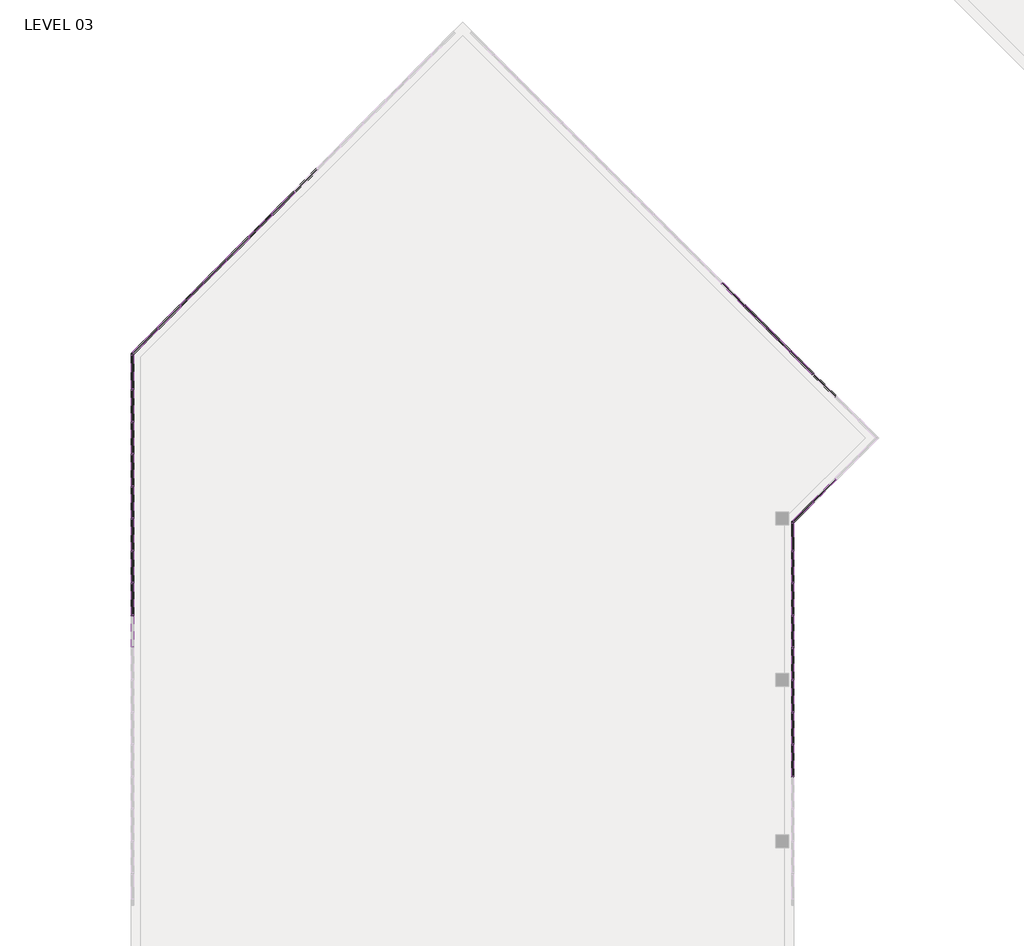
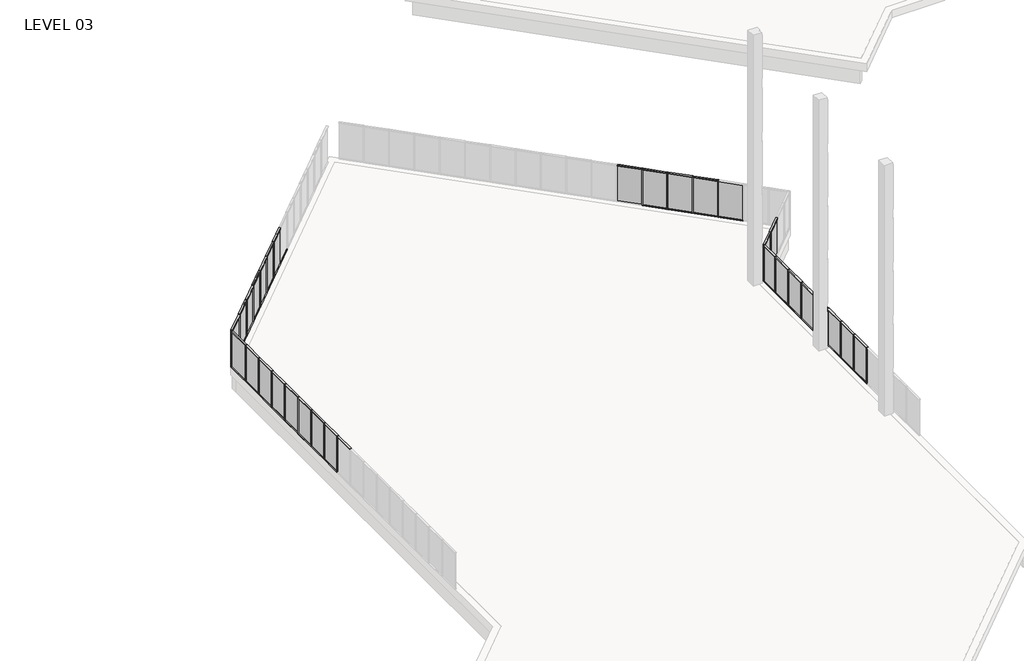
# One storey, part 5 of 18: 90 members, 30 plates.
"""IFC4 building model written with IfcOpenShell, lengths in millimetres."""

from ifc_helpers import new_model, si_unit, origin, place, context, project, spatial, transform, mapped, element, save
from components import member_5247f267, member_e44af9ab, member_800970d4, member_45eb7f2e, member_1bd862b2, member_c975838b, plate_67294edd, plate_bbcbcabf, plate_9c66726c, plate_3fb62afd, plate_129ab9d0

model = new_model("IFC4")

# Units and contexts
model_context = context("Model", 3, world=origin())
ifc_project = project(units=[si_unit("LENGTHUNIT", "METRE", prefix="MILLI")], contexts=[model_context])

# Site, building, storey
site = spatial("IfcSite", under=ifc_project)
building = spatial("IfcBuilding", under=site)
storey = spatial("IfcBuildingStorey", under=building, Name="LEVEL 03", Elevation=8280.4)

# Members
placement = place(None, origin())
member_shape = member_5247f267(model_context)
element("IfcMember", 1, ObjectType="Rectangular Mullion : 2\" x 4.5\" rectangular", at=placement, inside=storey, context=model_context, shape_type="MappedRepresentation", body=[
    mapped(member_shape, transform((-1611.8847164, 58254.5675885, 10871.2), x_axis=(0.0, 0.0, 1.0), y_axis=(1.0, 0.0, 0.0), z_axis=(0.0, 1.0, 0.0))),
])
element("IfcMember", 2, ObjectType="Rectangular Mullion : 2\" x 4.5\" rectangular", at=placement, inside=storey, context=model_context, shape_type="MappedRepresentation", body=[
    mapped(member_shape, transform((-1611.8847164, 59778.5675885, 10871.2), x_axis=(0.0, 0.0, 1.0), y_axis=(1.0, 0.0, 0.0), z_axis=(0.0, 1.0, 0.0))),
])
element("IfcMember", 3, ObjectType="Rectangular Mullion : 2\" x 4.5\" rectangular", at=placement, inside=storey, context=model_context, shape_type="MappedRepresentation", body=[
    mapped(member_shape, transform((-1611.8847164, 62826.5675885, 10871.2), x_axis=(0.0, 0.0, 1.0), y_axis=(1.0, 0.0, 0.0), z_axis=(0.0, 1.0, 0.0))),
])
element("IfcMember", 4, ObjectType="Rectangular Mullion : 2\" x 4.5\" rectangular", at=placement, inside=storey, context=model_context, shape_type="MappedRepresentation", body=[
    mapped(member_shape, transform((-1611.8847164, 64350.5675885, 10871.2), x_axis=(0.0, 0.0, 1.0), y_axis=(1.0, 0.0, 0.0), z_axis=(0.0, 1.0, 0.0))),
])
element("IfcMember", 5, ObjectType="Rectangular Mullion : 2\" x 4.5\" rectangular", at=placement, inside=storey, context=model_context, shape_type="MappedRepresentation", body=[
    mapped(member_shape, transform((-1611.8847164, 65874.5675885, 10871.2), x_axis=(0.0, 0.0, 1.0), y_axis=(1.0, 0.0, 0.0), z_axis=(0.0, 1.0, 0.0))),
])
element("IfcMember", 6, ObjectType="Rectangular Mullion : 2\" x 4.5\" rectangular", at=placement, inside=storey, context=model_context, shape_type="MappedRepresentation", body=[
    mapped(member_shape, transform((-1611.8847164, 67398.5675885, 10871.2), x_axis=(0.0, 0.0, 1.0), y_axis=(1.0, 0.0, 0.0), z_axis=(0.0, 1.0, 0.0))),
])
element("IfcMember", 7, ObjectType="Rectangular Mullion : 2\" x 4.5\" rectangular", at=placement, inside=storey, context=model_context, shape_type="MappedRepresentation", body=[
    mapped(member_shape, transform((-32784.0347164, 64350.5675885, 10871.2), x_axis=(0.0, 0.0, 1.0), y_axis=(1.0, 0.0, 0.0), z_axis=(0.0, 1.0, 0.0))),
])
element("IfcMember", 8, ObjectType="Rectangular Mullion : 2\" x 4.5\" rectangular", at=placement, inside=storey, context=model_context, shape_type="MappedRepresentation", body=[
    mapped(member_shape, transform((-32784.0347164, 67398.5675885, 10871.2), x_axis=(0.0, 0.0, 1.0), y_axis=(1.0, 0.0, 0.0), z_axis=(0.0, 1.0, 0.0))),
])
element("IfcMember", 9, ObjectType="Rectangular Mullion : 2\" x 4.5\" rectangular", at=placement, inside=storey, context=model_context, shape_type="MappedRepresentation", body=[
    mapped(member_shape, transform((-32784.0347164, 71970.5675885, 10871.2), x_axis=(0.0, 0.0, 1.0), y_axis=(1.0, 0.0, 0.0), z_axis=(0.0, 1.0, 0.0))),
])
element("IfcMember", 10, ObjectType="Rectangular Mullion : 2\" x 4.5\" rectangular", at=placement, inside=storey, context=model_context, shape_type="MappedRepresentation", body=[
    mapped(member_shape, transform((-32784.0347164, 73494.5675885, 10871.2), x_axis=(0.0, 0.0, 1.0), y_axis=(1.0, 0.0, 0.0), z_axis=(0.0, 1.0, 0.0))),
])
element("IfcMember", 11, ObjectType="Rectangular Mullion : 2\" x 4.5\" rectangular", at=placement, inside=storey, context=model_context, shape_type="MappedRepresentation", body=[
    mapped(member_shape, transform((-30529.7405, 78987.9679405, 10871.2), x_axis=(0.0, 0.0, 1.0), y_axis=(0.7071067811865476, -0.7071067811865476, 0.0), z_axis=(0.7071067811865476, 0.7071067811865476, 0.0))),
])
element("IfcMember", 12, ObjectType="Rectangular Mullion : 2\" x 4.5\" rectangular", at=placement, inside=storey, context=model_context, shape_type="MappedRepresentation", body=[
    mapped(member_shape, transform((-29452.1097655, 80065.598675, 10871.2), x_axis=(0.0, 0.0, 1.0), y_axis=(0.7071067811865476, -0.7071067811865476, 0.0), z_axis=(0.7071067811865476, 0.7071067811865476, 0.0))),
])
element("IfcMember", 13, ObjectType="Rectangular Mullion : 2\" x 4.5\" rectangular", at=placement, inside=storey, context=model_context, shape_type="MappedRepresentation", body=[
    mapped(member_shape, transform((-28374.479031, 81143.2294096, 10871.2), x_axis=(0.0, 0.0, 1.0), y_axis=(0.7071067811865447, -0.7071067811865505, 0.0), z_axis=(0.7071067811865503, 0.7071067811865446, 0.0))),
])
element("IfcMember", 14, ObjectType="Rectangular Mullion : 2\" x 4.5\" rectangular", at=placement, inside=storey, context=model_context, shape_type="MappedRepresentation", body=[
    mapped(member_shape, transform((-26219.2175619, 83298.4908786, 10871.2), x_axis=(0.0, 0.0, 1.0), y_axis=(0.707106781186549, -0.7071067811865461, 0.0), z_axis=(0.7071067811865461, 0.707106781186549, 0.0))),
])
element("IfcMember", 15, ObjectType="Rectangular Mullion : 2\" x 4.5\" rectangular", at=placement, inside=storey, context=model_context, shape_type="MappedRepresentation", body=[
    mapped(member_shape, transform((-25141.5868274, 84376.1216131, 10871.2), x_axis=(0.0, 0.0, 1.0), y_axis=(0.7071067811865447, -0.7071067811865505, 0.0), z_axis=(0.7071067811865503, 0.7071067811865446, 0.0))),
])
element("IfcMember", 16, ObjectType="Rectangular Mullion : 2\" x 4.5\" rectangular", at=placement, inside=storey, context=model_context, shape_type="MappedRepresentation", body=[
    mapped(member_shape, transform((-3902.2786299, 79024.0676376, 10871.2), x_axis=(0.0, 0.0, 1.0), y_axis=(-0.7071067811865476, -0.7071067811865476, 0.0), z_axis=(0.7071067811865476, -0.7071067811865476, 0.0))),
])
element("IfcMember", 17, ObjectType="Rectangular Mullion : 2\" x 4.5\" rectangular", at=placement, inside=storey, context=model_context, shape_type="MappedRepresentation", body=[
    mapped(member_shape, transform((-633.4615109, 69760.6846584, 10871.2), x_axis=(0.0, 0.0, 1.0), y_axis=(-0.7071067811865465, 0.7071067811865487, 0.0), z_axis=(-0.7071067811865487, -0.7071067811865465, 0.0))),
])
element("IfcMember", 18, ObjectType="Rectangular Mullion : 2\" x 4.5\" rectangular", at=placement, inside=storey, context=model_context, shape_type="MappedRepresentation", body=[
    mapped(member_shape, transform((-32784.0347164, 65874.5675885, 10871.2), x_axis=(0.0, 0.0, 1.0), y_axis=(1.0, 0.0, 0.0), z_axis=(0.0, 1.0, 0.0))),
])
element("IfcMember", 19, ObjectType="Rectangular Mullion : 2\" x 4.5\" rectangular", at=placement, inside=storey, context=model_context, shape_type="MappedRepresentation", body=[
    mapped(member_shape, transform((-32784.0347164, 68922.5675885, 10871.2), x_axis=(0.0, 0.0, 1.0), y_axis=(1.0, 0.0, 0.0), z_axis=(0.0, 1.0, 0.0))),
])
element("IfcMember", 20, ObjectType="Rectangular Mullion : 2\" x 4.5\" rectangular", at=placement, inside=storey, context=model_context, shape_type="MappedRepresentation", body=[
    mapped(member_shape, transform((-32784.0347164, 70446.5675885, 10871.2), x_axis=(0.0, 0.0, 1.0), y_axis=(1.0, 0.0, 0.0), z_axis=(0.0, 1.0, 0.0))),
])
element("IfcMember", 21, ObjectType="Rectangular Mullion : 2\" x 4.5\" rectangular", at=placement, inside=storey, context=model_context, shape_type="MappedRepresentation", body=[
    mapped(member_shape, transform((-32784.0347164, 75018.5675885, 10871.2), x_axis=(0.0, 0.0, 1.0), y_axis=(1.0, 0.0, 0.0), z_axis=(0.0, 1.0, 0.0))),
])
element("IfcMember", 22, ObjectType="Rectangular Mullion : 2\" x 4.5\" rectangular", at=placement, inside=storey, context=model_context, shape_type="MappedRepresentation", body=[
    mapped(member_shape, transform((-27296.8482965, 82220.8601441, 10871.2), x_axis=(0.0, 0.0, 1.0), y_axis=(0.7071067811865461, -0.707106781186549, 0.0), z_axis=(0.707106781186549, 0.7071067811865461, 0.0))),
])
element("IfcMember", 23, ObjectType="Rectangular Mullion : 2\" x 4.5\" rectangular", at=placement, inside=storey, context=model_context, shape_type="MappedRepresentation", body=[
    mapped(member_shape, transform((-2824.6478954, 77946.4369031, 10871.2), x_axis=(0.0, 0.0, 1.0), y_axis=(-0.7071067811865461, -0.707106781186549, 0.0), z_axis=(0.707106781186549, -0.7071067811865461, 0.0))),
])
element("IfcMember", 24, ObjectType="Rectangular Mullion : 2\" x 4.5\" rectangular", at=placement, inside=storey, context=model_context, shape_type="MappedRepresentation", body=[
    mapped(member_shape, transform((-1747.0171608, 76868.8061686, 10871.2), x_axis=(0.0, 0.0, 1.0), y_axis=(-0.7071067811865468, -0.7071067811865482, 0.0), z_axis=(0.7071067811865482, -0.7071067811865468, 0.0))),
])
element("IfcMember", 25, ObjectType="Rectangular Mullion : 2\" x 4.5\" rectangular", at=placement, inside=storey, context=model_context, shape_type="MappedRepresentation", body=[
    mapped(member_shape, transform((-669.3864263, 75791.175434, 10871.2), x_axis=(0.0, 0.0, 1.0), y_axis=(-0.7071067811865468, -0.7071067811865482, 0.0), z_axis=(0.7071067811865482, -0.7071067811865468, 0.0))),
])
element("IfcMember", 26, ObjectType="Rectangular Mullion : 2\" x 4.5\" rectangular", at=placement, inside=storey, context=model_context, shape_type="MappedRepresentation", body=[
    mapped(member_shape, transform((-1611.8847164, 61302.5675885, 10871.2), x_axis=(0.0, 0.0, 1.0), y_axis=(1.0, 0.0, 0.0), z_axis=(0.0, 1.0, 0.0))),
])
element("IfcMember", 27, ObjectType="Rectangular Mullion : 2\" x 4.5\" rectangular", at=placement, inside=storey, context=model_context, shape_type="MappedRepresentation", body=[
    mapped(member_shape, transform((-1611.8847164, 56781.3675885, 8280.4), x_axis=(0.0, 0.0, -1.0), y_axis=(1.0, 0.0, 0.0), z_axis=(0.0, -1.0, 0.0))),
])
element("IfcMember", 28, ObjectType="Rectangular Mullion : 2\" x 4.5\" rectangular", at=placement, inside=storey, context=model_context, shape_type="MappedRepresentation", body=[
    mapped(member_shape, transform((-1611.8847164, 58305.3675885, 8280.4), x_axis=(0.0, 0.0, -1.0), y_axis=(1.0, 0.0, 0.0), z_axis=(0.0, -1.0, 0.0))),
])
element("IfcMember", 29, ObjectType="Rectangular Mullion : 2\" x 4.5\" rectangular", at=placement, inside=storey, context=model_context, shape_type="MappedRepresentation", body=[
    mapped(member_shape, transform((-1611.8847164, 59829.3675885, 8280.4), x_axis=(0.0, 0.0, -1.0), y_axis=(1.0, 0.0, 0.0), z_axis=(0.0, -1.0, 0.0))),
])
element("IfcMember", 30, ObjectType="Rectangular Mullion : 2\" x 4.5\" rectangular", at=placement, inside=storey, context=model_context, shape_type="MappedRepresentation", body=[
    mapped(member_shape, transform((-1611.8847164, 62877.3675885, 8280.4), x_axis=(0.0, 0.0, -1.0), y_axis=(1.0, 0.0, 0.0), z_axis=(0.0, -1.0, 0.0))),
])
element("IfcMember", 31, ObjectType="Rectangular Mullion : 2\" x 4.5\" rectangular", at=placement, inside=storey, context=model_context, shape_type="MappedRepresentation", body=[
    mapped(member_shape, transform((-1611.8847164, 64401.3675885, 8280.4), x_axis=(0.0, 0.0, -1.0), y_axis=(1.0, 0.0, 0.0), z_axis=(0.0, -1.0, 0.0))),
])
element("IfcMember", 32, ObjectType="Rectangular Mullion : 2\" x 4.5\" rectangular", at=placement, inside=storey, context=model_context, shape_type="MappedRepresentation", body=[
    mapped(member_shape, transform((-1611.8847164, 65925.3675885, 8280.4), x_axis=(0.0, 0.0, -1.0), y_axis=(1.0, 0.0, 0.0), z_axis=(0.0, -1.0, 0.0))),
])
element("IfcMember", 33, ObjectType="Rectangular Mullion : 2\" x 4.5\" rectangular", at=placement, inside=storey, context=model_context, shape_type="MappedRepresentation", body=[
    mapped(member_shape, transform((-32784.0347164, 64401.3675885, 8280.4), x_axis=(0.0, 0.0, -1.0), y_axis=(1.0, 0.0, 0.0), z_axis=(0.0, -1.0, 0.0))),
])
element("IfcMember", 34, ObjectType="Rectangular Mullion : 2\" x 4.5\" rectangular", at=placement, inside=storey, context=model_context, shape_type="MappedRepresentation", body=[
    mapped(member_shape, transform((-32784.0347164, 67449.3675885, 8280.4), x_axis=(0.0, 0.0, -1.0), y_axis=(1.0, 0.0, 0.0), z_axis=(0.0, -1.0, 0.0))),
])
element("IfcMember", 35, ObjectType="Rectangular Mullion : 2\" x 4.5\" rectangular", at=placement, inside=storey, context=model_context, shape_type="MappedRepresentation", body=[
    mapped(member_shape, transform((-32784.0347164, 72021.3675885, 8280.4), x_axis=(0.0, 0.0, -1.0), y_axis=(1.0, 0.0, 0.0), z_axis=(0.0, -1.0, 0.0))),
])
element("IfcMember", 36, ObjectType="Rectangular Mullion : 2\" x 4.5\" rectangular", at=placement, inside=storey, context=model_context, shape_type="MappedRepresentation", body=[
    mapped(member_shape, transform((-32784.0347164, 73545.3675885, 8280.4), x_axis=(0.0, 0.0, -1.0), y_axis=(1.0, 0.0, 0.0), z_axis=(0.0, -1.0, 0.0))),
])
element("IfcMember", 37, ObjectType="Rectangular Mullion : 2\" x 4.5\" rectangular", at=placement, inside=storey, context=model_context, shape_type="MappedRepresentation", body=[
    mapped(member_shape, transform((-31571.4502101, 77946.2582305, 8280.4), x_axis=(0.0, 0.0, -1.0), y_axis=(0.7071067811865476, -0.7071067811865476, 0.0), z_axis=(-0.7071067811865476, -0.7071067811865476, 0.0))),
])
element("IfcMember", 38, ObjectType="Rectangular Mullion : 2\" x 4.5\" rectangular", at=placement, inside=storey, context=model_context, shape_type="MappedRepresentation", body=[
    mapped(member_shape, transform((-30493.8194756, 79023.888965, 8280.4), x_axis=(0.0, 0.0, -1.0), y_axis=(0.7071067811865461, -0.707106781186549, 0.0), z_axis=(-0.707106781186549, -0.7071067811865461, 0.0))),
])
element("IfcMember", 39, ObjectType="Rectangular Mullion : 2\" x 4.5\" rectangular", at=placement, inside=storey, context=model_context, shape_type="MappedRepresentation", body=[
    mapped(member_shape, transform((-29416.188741, 80101.5196995, 8280.4), x_axis=(0.0, 0.0, -1.0), y_axis=(0.7071067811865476, -0.7071067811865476, 0.0), z_axis=(-0.7071067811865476, -0.7071067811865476, 0.0))),
])
element("IfcMember", 40, ObjectType="Rectangular Mullion : 2\" x 4.5\" rectangular", at=placement, inside=storey, context=model_context, shape_type="MappedRepresentation", body=[
    mapped(member_shape, transform((-28338.5580065, 81179.150434, 8280.4), x_axis=(0.0, 0.0, -1.0), y_axis=(0.7071067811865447, -0.7071067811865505, 0.0), z_axis=(-0.7071067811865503, -0.7071067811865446, 0.0))),
])
element("IfcMember", 41, ObjectType="Rectangular Mullion : 2\" x 4.5\" rectangular", at=placement, inside=storey, context=model_context, shape_type="MappedRepresentation", body=[
    mapped(member_shape, transform((-26183.2965374, 83334.4119031, 8280.4), x_axis=(0.0, 0.0, -1.0), y_axis=(0.7071067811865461, -0.707106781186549, 0.0), z_axis=(-0.707106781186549, -0.7071067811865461, 0.0))),
])
element("IfcMember", 42, ObjectType="Rectangular Mullion : 2\" x 4.5\" rectangular", at=placement, inside=storey, context=model_context, shape_type="MappedRepresentation", body=[
    mapped(member_shape, transform((-25105.6658029, 84412.0426376, 8280.4), x_axis=(0.0, 0.0, -1.0), y_axis=(0.707106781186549, -0.7071067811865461, 0.0), z_axis=(-0.7071067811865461, -0.707106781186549, 0.0))),
])
element("IfcMember", 43, ObjectType="Rectangular Mullion : 2\" x 4.5\" rectangular", at=placement, inside=storey, context=model_context, shape_type="MappedRepresentation", body=[
    mapped(member_shape, transform((-3866.3576054, 78988.1466131, 8280.4), x_axis=(0.0, 0.0, -1.0), y_axis=(-0.7071067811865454, -0.7071067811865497, 0.0), z_axis=(-0.7071067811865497, 0.7071067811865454, 0.0))),
])
element("IfcMember", 44, ObjectType="Rectangular Mullion : 2\" x 4.5\" rectangular", at=placement, inside=storey, context=model_context, shape_type="MappedRepresentation", body=[
    mapped(member_shape, transform((-32784.0347164, 65925.3675885, 8280.4), x_axis=(0.0, 0.0, -1.0), y_axis=(1.0, 0.0, 0.0), z_axis=(0.0, -1.0, 0.0))),
])
element("IfcMember", 45, ObjectType="Rectangular Mullion : 2\" x 4.5\" rectangular", at=placement, inside=storey, context=model_context, shape_type="MappedRepresentation", body=[
    mapped(member_shape, transform((-32784.0347164, 68973.3675885, 8280.4), x_axis=(0.0, 0.0, -1.0), y_axis=(1.0, 0.0, 0.0), z_axis=(0.0, -1.0, 0.0))),
])
element("IfcMember", 46, ObjectType="Rectangular Mullion : 2\" x 4.5\" rectangular", at=placement, inside=storey, context=model_context, shape_type="MappedRepresentation", body=[
    mapped(member_shape, transform((-32784.0347164, 70497.3675885, 8280.4), x_axis=(0.0, 0.0, -1.0), y_axis=(1.0, 0.0, 0.0), z_axis=(0.0, -1.0, 0.0))),
])
element("IfcMember", 47, ObjectType="Rectangular Mullion : 2\" x 4.5\" rectangular", at=placement, inside=storey, context=model_context, shape_type="MappedRepresentation", body=[
    mapped(member_shape, transform((-27260.927272, 82256.7811686, 8280.4), x_axis=(0.0, 0.0, -1.0), y_axis=(0.7071067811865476, -0.7071067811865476, 0.0), z_axis=(-0.7071067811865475, -0.7071067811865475, 0.0))),
])
element("IfcMember", 48, ObjectType="Rectangular Mullion : 2\" x 4.5\" rectangular", at=placement, inside=storey, context=model_context, shape_type="MappedRepresentation", body=[
    mapped(member_shape, transform((-2788.7268709, 77910.5158786, 8280.4), x_axis=(0.0, 0.0, -1.0), y_axis=(-0.7071067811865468, -0.7071067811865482, 0.0), z_axis=(-0.7071067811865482, 0.7071067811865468, 0.0))),
])
element("IfcMember", 49, ObjectType="Rectangular Mullion : 2\" x 4.5\" rectangular", at=placement, inside=storey, context=model_context, shape_type="MappedRepresentation", body=[
    mapped(member_shape, transform((-1711.0961363, 76832.8851441, 8280.4), x_axis=(0.0, 0.0, -1.0), y_axis=(-0.7071067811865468, -0.7071067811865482, 0.0), z_axis=(-0.7071067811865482, 0.7071067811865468, 0.0))),
])
element("IfcMember", 50, ObjectType="Rectangular Mullion : 2\" x 4.5\" rectangular", at=placement, inside=storey, context=model_context, shape_type="MappedRepresentation", body=[
    mapped(member_shape, transform((-633.4654018, 75755.2544096, 8280.4), x_axis=(0.0, 0.0, -1.0), y_axis=(-0.7071067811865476, -0.7071067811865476, 0.0), z_axis=(-0.7071067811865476, 0.7071067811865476, 0.0))),
])
element("IfcMember", 51, ObjectType="Rectangular Mullion : 2\" x 4.5\" rectangular", at=placement, inside=storey, context=model_context, shape_type="MappedRepresentation", body=[
    mapped(member_shape, transform((-1611.8847164, 61353.3675885, 8280.4), x_axis=(0.0, 0.0, -1.0), y_axis=(1.0, 0.0, 0.0), z_axis=(0.0, -1.0, 0.0))),
])
member_2_shape = member_e44af9ab(model_context)
element("IfcMember", 52, ObjectType="Rectangular Mullion : 2\" x 4.5\" rectangular", at=placement, inside=storey, context=model_context, shape_type="MappedRepresentation", body=[
    mapped(member_2_shape, transform((-1611.8847164, 56755.9675885, 8280.4), x_axis=(0.0, 1.0, 0.0), y_axis=(1.0, 0.0, 0.0), z_axis=(0.0, 0.0, -1.0))),
])
element("IfcMember", 53, ObjectType="Rectangular Mullion : 2\" x 4.5\" rectangular", at=placement, inside=storey, context=model_context, shape_type="MappedRepresentation", body=[
    mapped(member_2_shape, transform((-1611.8847164, 58279.9675885, 8280.4), x_axis=(0.0, 1.0, 0.0), y_axis=(1.0, 0.0, 0.0), z_axis=(0.0, 0.0, -1.0))),
])
element("IfcMember", 54, ObjectType="Rectangular Mullion : 2\" x 4.5\" rectangular", at=placement, inside=storey, context=model_context, shape_type="MappedRepresentation", body=[
    mapped(member_2_shape, transform((-1611.8847164, 59803.9675885, 8280.4), x_axis=(0.0, 1.0, 0.0), y_axis=(1.0, 0.0, 0.0), z_axis=(0.0, 0.0, -1.0))),
])
element("IfcMember", 55, ObjectType="Rectangular Mullion : 2\" x 4.5\" rectangular", at=placement, inside=storey, context=model_context, shape_type="MappedRepresentation", body=[
    mapped(member_2_shape, transform((-1611.8847164, 62851.9675885, 8280.4), x_axis=(0.0, 1.0, 0.0), y_axis=(1.0, 0.0, 0.0), z_axis=(0.0, 0.0, -1.0))),
])
element("IfcMember", 56, ObjectType="Rectangular Mullion : 2\" x 4.5\" rectangular", at=placement, inside=storey, context=model_context, shape_type="MappedRepresentation", body=[
    mapped(member_2_shape, transform((-1611.8847164, 64375.9675885, 8280.4), x_axis=(0.0, 1.0, 0.0), y_axis=(1.0, 0.0, 0.0), z_axis=(0.0, 0.0, -1.0))),
])
element("IfcMember", 57, ObjectType="Rectangular Mullion : 2\" x 4.5\" rectangular", at=placement, inside=storey, context=model_context, shape_type="MappedRepresentation", body=[
    mapped(member_2_shape, transform((-1611.8847164, 65899.9675885, 8280.4), x_axis=(0.0, 1.0, 0.0), y_axis=(1.0, 0.0, 0.0), z_axis=(0.0, 0.0, -1.0))),
])
element("IfcMember", 58, ObjectType="Rectangular Mullion : 2\" x 4.5\" rectangular", at=placement, inside=storey, context=model_context, shape_type="MappedRepresentation", body=[
    mapped(member_2_shape, transform((-1611.8847164, 67423.9675885, 8280.4), x_axis=(0.0, 1.0, 0.0), y_axis=(1.0, 0.0, 0.0), z_axis=(0.0, 0.0, -1.0))),
])
element("IfcMember", 59, ObjectType="Rectangular Mullion : 2\" x 4.5\" rectangular", at=placement, inside=storey, context=model_context, shape_type="MappedRepresentation", body=[
    mapped(member_2_shape, transform((-32784.0347164, 64375.9675885, 8280.4), x_axis=(0.0, 1.0, 0.0), y_axis=(1.0, 0.0, 0.0), z_axis=(0.0, 0.0, -1.0))),
])
element("IfcMember", 60, ObjectType="Rectangular Mullion : 2\" x 4.5\" rectangular", at=placement, inside=storey, context=model_context, shape_type="MappedRepresentation", body=[
    mapped(member_2_shape, transform((-32784.0347164, 67423.9675885, 8280.4), x_axis=(0.0, 1.0, 0.0), y_axis=(1.0, 0.0, 0.0), z_axis=(0.0, 0.0, -1.0))),
])
element("IfcMember", 61, ObjectType="Rectangular Mullion : 2\" x 4.5\" rectangular", at=placement, inside=storey, context=model_context, shape_type="MappedRepresentation", body=[
    mapped(member_2_shape, transform((-32784.0347164, 71995.9675885, 8280.4), x_axis=(0.0, 1.0, 0.0), y_axis=(1.0, 0.0, 0.0), z_axis=(0.0, 0.0, -1.0))),
])
element("IfcMember", 62, ObjectType="Rectangular Mullion : 2\" x 4.5\" rectangular", at=placement, inside=storey, context=model_context, shape_type="MappedRepresentation", body=[
    mapped(member_2_shape, transform((-32784.0347164, 73519.9675885, 8280.4), x_axis=(0.0, 1.0, 0.0), y_axis=(1.0, 0.0, 0.0), z_axis=(0.0, 0.0, -1.0))),
])
element("IfcMember", 63, ObjectType="Rectangular Mullion : 2\" x 4.5\" rectangular", at=placement, inside=storey, context=model_context, shape_type="MappedRepresentation", body=[
    mapped(member_2_shape, transform((-31589.4107223, 77928.2977182, 8280.4), x_axis=(0.7071067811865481, 0.7071067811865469, 0.0), y_axis=(0.7071067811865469, -0.7071067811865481, 0.0), z_axis=(0.0, 0.0, -1.0))),
])
element("IfcMember", 64, ObjectType="Rectangular Mullion : 2\" x 4.5\" rectangular", at=placement, inside=storey, context=model_context, shape_type="MappedRepresentation", body=[
    mapped(member_2_shape, transform((-30511.7799878, 79005.9284527, 8280.4), x_axis=(0.7071067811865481, 0.7071067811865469, 0.0), y_axis=(0.7071067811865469, -0.7071067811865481, 0.0), z_axis=(0.0, 0.0, -1.0))),
])
element("IfcMember", 65, ObjectType="Rectangular Mullion : 2\" x 4.5\" rectangular", at=placement, inside=storey, context=model_context, shape_type="MappedRepresentation", body=[
    mapped(member_2_shape, transform((-29434.1492533, 80083.5591873, 8280.4), x_axis=(0.7071067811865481, 0.7071067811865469, 0.0), y_axis=(0.7071067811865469, -0.7071067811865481, 0.0), z_axis=(0.0, 0.0, -1.0))),
])
element("IfcMember", 66, ObjectType="Rectangular Mullion : 2\" x 4.5\" rectangular", at=placement, inside=storey, context=model_context, shape_type="MappedRepresentation", body=[
    mapped(member_2_shape, transform((-28356.5185187, 81161.1899218, 8280.4), x_axis=(0.7071067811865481, 0.7071067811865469, 0.0), y_axis=(0.7071067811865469, -0.7071067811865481, 0.0), z_axis=(0.0, 0.0, -1.0))),
])
element("IfcMember", 67, ObjectType="Rectangular Mullion : 2\" x 4.5\" rectangular", at=placement, inside=storey, context=model_context, shape_type="MappedRepresentation", body=[
    mapped(member_2_shape, transform((-26201.2570497, 83316.4513909, 8280.4), x_axis=(0.7071067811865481, 0.7071067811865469, 0.0), y_axis=(0.7071067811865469, -0.7071067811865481, 0.0), z_axis=(0.0, 0.0, -1.0))),
])
element("IfcMember", 68, ObjectType="Rectangular Mullion : 2\" x 4.5\" rectangular", at=placement, inside=storey, context=model_context, shape_type="MappedRepresentation", body=[
    mapped(member_2_shape, transform((-3884.3181176, 79006.1071254, 8280.4), x_axis=(0.707106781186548, -0.7071067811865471, 0.0), y_axis=(-0.7071067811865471, -0.707106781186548, 0.0), z_axis=(0.0, 0.0, -1.0))),
])
element("IfcMember", 69, ObjectType="Rectangular Mullion : 2\" x 4.5\" rectangular", at=placement, inside=storey, context=model_context, shape_type="MappedRepresentation", body=[
    mapped(member_2_shape, transform((-651.4220231, 69742.7241462, 8280.4), x_axis=(-0.707106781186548, -0.7071067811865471, 0.0), y_axis=(-0.7071067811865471, 0.707106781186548, 0.0), z_axis=(0.0, 0.0, -1.0))),
])
element("IfcMember", 70, ObjectType="Rectangular Mullion : 2\" x 4.5\" rectangular", at=placement, inside=storey, context=model_context, shape_type="MappedRepresentation", body=[
    mapped(member_2_shape, transform((-32784.0347164, 65899.9675885, 8280.4), x_axis=(0.0, 1.0, 0.0), y_axis=(1.0, 0.0, 0.0), z_axis=(0.0, 0.0, -1.0))),
])
element("IfcMember", 71, ObjectType="Rectangular Mullion : 2\" x 4.5\" rectangular", at=placement, inside=storey, context=model_context, shape_type="MappedRepresentation", body=[
    mapped(member_2_shape, transform((-32784.0347164, 68947.9675885, 8280.4), x_axis=(0.0, 1.0, 0.0), y_axis=(1.0, 0.0, 0.0), z_axis=(0.0, 0.0, -1.0))),
])
element("IfcMember", 72, ObjectType="Rectangular Mullion : 2\" x 4.5\" rectangular", at=placement, inside=storey, context=model_context, shape_type="MappedRepresentation", body=[
    mapped(member_2_shape, transform((-32784.0347164, 70471.9675885, 8280.4), x_axis=(0.0, 1.0, 0.0), y_axis=(1.0, 0.0, 0.0), z_axis=(0.0, 0.0, -1.0))),
])
element("IfcMember", 73, ObjectType="Rectangular Mullion : 2\" x 4.5\" rectangular", at=placement, inside=storey, context=model_context, shape_type="MappedRepresentation", body=[
    mapped(member_2_shape, transform((-32784.0347164, 75043.9675885, 8280.4), x_axis=(0.0, 1.0, 0.0), y_axis=(1.0, 0.0, 0.0), z_axis=(0.0, 0.0, -1.0))),
])
element("IfcMember", 74, ObjectType="Rectangular Mullion : 2\" x 4.5\" rectangular", at=placement, inside=storey, context=model_context, shape_type="MappedRepresentation", body=[
    mapped(member_2_shape, transform((-27278.8877842, 82238.8206563, 8280.4), x_axis=(0.7071067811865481, 0.7071067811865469, 0.0), y_axis=(0.7071067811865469, -0.7071067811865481, 0.0), z_axis=(0.0, 0.0, -1.0))),
])
element("IfcMember", 75, ObjectType="Rectangular Mullion : 2\" x 4.5\" rectangular", at=placement, inside=storey, context=model_context, shape_type="MappedRepresentation", body=[
    mapped(member_2_shape, transform((-2806.6873831, 77928.4763909, 8280.4), x_axis=(0.707106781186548, -0.7071067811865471, 0.0), y_axis=(-0.7071067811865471, -0.707106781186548, 0.0), z_axis=(0.0, 0.0, -1.0))),
])
element("IfcMember", 76, ObjectType="Rectangular Mullion : 2\" x 4.5\" rectangular", at=placement, inside=storey, context=model_context, shape_type="MappedRepresentation", body=[
    mapped(member_2_shape, transform((-1729.0566486, 76850.8456563, 8280.4), x_axis=(0.707106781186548, -0.7071067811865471, 0.0), y_axis=(-0.7071067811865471, -0.707106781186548, 0.0), z_axis=(0.0, 0.0, -1.0))),
])
element("IfcMember", 77, ObjectType="Rectangular Mullion : 2\" x 4.5\" rectangular", at=placement, inside=storey, context=model_context, shape_type="MappedRepresentation", body=[
    mapped(member_2_shape, transform((-651.4259141, 75773.2149218, 8280.4), x_axis=(0.707106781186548, -0.7071067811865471, 0.0), y_axis=(-0.7071067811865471, -0.707106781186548, 0.0), z_axis=(0.0, 0.0, -1.0))),
])
element("IfcMember", 78, ObjectType="Rectangular Mullion : 2\" x 4.5\" rectangular", at=placement, inside=storey, context=model_context, shape_type="MappedRepresentation", body=[
    mapped(member_2_shape, transform((-1611.8847164, 61327.9675885, 8280.4), x_axis=(0.0, 1.0, 0.0), y_axis=(1.0, 0.0, 0.0), z_axis=(0.0, 0.0, -1.0))),
])
member_3_shape = member_800970d4(model_context)
element("IfcMember", 79, ObjectType="Rectangular Mullion : 2\" x 4.5\" rectangular", at=placement, inside=storey, context=model_context, shape_type="MappedRepresentation", body=[
    mapped(member_3_shape, transform((-1611.8847164, 68782.2614529, 8280.4), x_axis=(0.0, 1.0, 0.0), y_axis=(1.0, 0.0, 0.0), z_axis=(0.0, 0.0, -1.0))),
])
element("IfcMember", 80, ObjectType="Rectangular Mullion : 2\" x 4.5\" rectangular", at=placement, inside=storey, context=model_context, shape_type="MappedRepresentation", body=[
    mapped(member_3_shape, transform((-32784.0347164, 76733.6737241, 8280.4), x_axis=(0.0, 1.0, 0.0), y_axis=(1.0, 0.0, 0.0), z_axis=(0.0, 0.0, -1.0))),
])
element("IfcMember", 81, ObjectType="Rectangular Mullion : 2\" x 4.5\" rectangular", at=placement, inside=storey, context=model_context, shape_type="MappedRepresentation", body=[
    mapped(member_3_shape, transform((-1611.8847164, 68782.2614529, 8280.4), x_axis=(-0.707106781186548, -0.7071067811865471, 0.0), y_axis=(-0.7071067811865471, 0.707106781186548, 0.0), z_axis=(0.0, 0.0, -1.0))),
])
element("IfcMember", 82, ObjectType="Rectangular Mullion : 2\" x 4.5\" rectangular", at=placement, inside=storey, context=model_context, shape_type="MappedRepresentation", body=[
    mapped(member_3_shape, transform((-32784.0347164, 76733.6737241, 10871.2), x_axis=(-0.7071067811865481, -0.7071067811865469, 0.0), y_axis=(0.7071067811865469, -0.7071067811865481, 0.0), z_axis=(0.0, 0.0, 1.0))),
])
member_4_shape = member_45eb7f2e(model_context)
element("IfcMember", 83, ObjectType="Rectangular Mullion : 2\" x 4.5\" rectangular", at=placement, inside=storey, context=model_context, shape_type="MappedRepresentation", body=[
    mapped(member_4_shape, transform((-1611.8847164, 68731.4614529, 10871.2), x_axis=(0.0, 0.0, 1.0), y_axis=(1.0, 0.0, 0.0), z_axis=(0.0, 1.0, 0.0))),
])
element("IfcMember", 84, ObjectType="Rectangular Mullion : 2\" x 4.5\" rectangular", at=placement, inside=storey, context=model_context, shape_type="MappedRepresentation", body=[
    mapped(member_4_shape, transform((-1575.9636919, 68818.1824774, 10871.2), x_axis=(0.0, 0.0, 1.0), y_axis=(-0.7071067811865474, 0.7071067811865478, 0.0), z_axis=(-0.7071067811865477, -0.7071067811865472, 0.0))),
])
member_5_shape = member_1bd862b2(model_context)
element("IfcMember", 85, ObjectType="Rectangular Mullion : 2\" x 4.5\" rectangular", at=placement, inside=storey, context=model_context, shape_type="MappedRepresentation", body=[
    mapped(member_5_shape, transform((-32784.0347164, 75069.3675885, 8280.4), x_axis=(0.0, 0.0, -1.0), y_axis=(1.0, 0.0, 0.0), z_axis=(0.0, -1.0, 0.0))),
])
element("IfcMember", 86, ObjectType="Rectangular Mullion : 2\" x 4.5\" rectangular", at=placement, inside=storey, context=model_context, shape_type="MappedRepresentation", body=[
    mapped(member_4_shape, transform((-1611.8847164, 67449.3675885, 8280.4), x_axis=(0.0, 0.0, -1.0), y_axis=(1.0, 0.0, 0.0), z_axis=(0.0, -1.0, 0.0))),
])
element("IfcMember", 87, ObjectType="Rectangular Mullion : 2\" x 4.5\" rectangular", at=placement, inside=storey, context=model_context, shape_type="MappedRepresentation", body=[
    mapped(member_4_shape, transform((-669.3825354, 69724.7636339, 8280.4), x_axis=(0.0, 0.0, -1.0), y_axis=(-0.7071067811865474, 0.7071067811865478, 0.0), z_axis=(0.7071067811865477, 0.7071067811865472, 0.0))),
])
element("IfcMember", 88, ObjectType="Rectangular Mullion : 2\" x 4.5\" rectangular", at=placement, inside=storey, context=model_context, shape_type="MappedRepresentation", body=[
    mapped(member_5_shape, transform((-32784.0347164, 76682.8737241, 10871.2), x_axis=(0.0, 0.0, 1.0), y_axis=(1.0, 0.0, 0.0), z_axis=(0.0, 1.0, 0.0))),
])
member_6_shape = member_c975838b(model_context)
element("IfcMember", 89, ObjectType="Rectangular Mullion : 2\" x 4.5\" rectangular", at=placement, inside=storey, context=model_context, shape_type="MappedRepresentation", body=[
    mapped(member_6_shape, transform((-32748.1136919, 76769.5947486, 8280.4), x_axis=(0.0, 0.0, -1.0), y_axis=(0.7071067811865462, -0.7071067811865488, 0.0), z_axis=(-0.7071067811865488, -0.7071067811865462, 0.0))),
])
element("IfcMember", 90, ObjectType="Rectangular Mullion : 2\" x 4.5\" rectangular", at=placement, inside=storey, context=model_context, shape_type="MappedRepresentation", body=[
    mapped(member_6_shape, transform((-31607.3712346, 77910.337206, 10871.2), x_axis=(0.0, 0.0, 1.0), y_axis=(0.7071067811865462, -0.7071067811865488, 0.0), z_axis=(0.7071067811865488, 0.7071067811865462, 0.0))),
])

# Plates
plate_shape = plate_67294edd(model_context)
element("IfcPlate", 91, ObjectType="System Panel : 1/4\" Glass", at=placement, inside=storey, context=model_context, shape_type="MappedRepresentation", body=[
    mapped(plate_shape, transform((-1611.8847164, 57517.9675885, 8331.2), x_axis=(0.0, 1.0, 0.0), y_axis=(-1.0, 0.0, 0.0), z_axis=(0.0, 0.0, 1.0))),
])
element("IfcPlate", 92, ObjectType="System Panel : 1/4\" Glass", at=placement, inside=storey, context=model_context, shape_type="MappedRepresentation", body=[
    mapped(plate_shape, transform((-1611.8847164, 59041.9675885, 8331.2), x_axis=(0.0, 1.0, 0.0), y_axis=(-1.0, 0.0, 0.0), z_axis=(0.0, 0.0, 1.0))),
])
element("IfcPlate", 93, ObjectType="System Panel : 1/4\" Glass", at=placement, inside=storey, context=model_context, shape_type="MappedRepresentation", body=[
    mapped(plate_shape, transform((-1611.8847164, 60565.9675885, 8331.2), x_axis=(0.0, 1.0, 0.0), y_axis=(-1.0, 0.0, 0.0), z_axis=(0.0, 0.0, 1.0))),
])
element("IfcPlate", 94, ObjectType="System Panel : 1/4\" Glass", at=placement, inside=storey, context=model_context, shape_type="MappedRepresentation", body=[
    mapped(plate_shape, transform((-1611.8847164, 63613.9675885, 8331.2), x_axis=(0.0, 1.0, 0.0), y_axis=(-1.0, 0.0, 0.0), z_axis=(0.0, 0.0, 1.0))),
])
element("IfcPlate", 95, ObjectType="System Panel : 1/4\" Glass", at=placement, inside=storey, context=model_context, shape_type="MappedRepresentation", body=[
    mapped(plate_shape, transform((-1611.8847164, 65137.9675885, 8331.2), x_axis=(0.0, 1.0, 0.0), y_axis=(-1.0, 0.0, 0.0), z_axis=(0.0, 0.0, 1.0))),
])
element("IfcPlate", 96, ObjectType="System Panel : 1/4\" Glass", at=placement, inside=storey, context=model_context, shape_type="MappedRepresentation", body=[
    mapped(plate_shape, transform((-1611.8847164, 66661.9675885, 8331.2), x_axis=(0.0, 1.0, 0.0), y_axis=(-1.0, 0.0, 0.0), z_axis=(0.0, 0.0, 1.0))),
])
element("IfcPlate", 97, ObjectType="System Panel : 1/4\" Glass", at=placement, inside=storey, context=model_context, shape_type="MappedRepresentation", body=[
    mapped(plate_shape, transform((-32784.0347164, 65137.9675885, 8331.2), x_axis=(0.0, 1.0, 0.0), y_axis=(-1.0, 0.0, 0.0), z_axis=(0.0, 0.0, 1.0))),
])
element("IfcPlate", 98, ObjectType="System Panel : 1/4\" Glass", at=placement, inside=storey, context=model_context, shape_type="MappedRepresentation", body=[
    mapped(plate_shape, transform((-32784.0347164, 68185.9675885, 8331.2), x_axis=(0.0, 1.0, 0.0), y_axis=(-1.0, 0.0, 0.0), z_axis=(0.0, 0.0, 1.0))),
])
element("IfcPlate", 99, ObjectType="System Panel : 1/4\" Glass", at=placement, inside=storey, context=model_context, shape_type="MappedRepresentation", body=[
    mapped(plate_shape, transform((-32784.0347164, 72757.9675885, 8331.2), x_axis=(0.0, 1.0, 0.0), y_axis=(-1.0, 0.0, 0.0), z_axis=(0.0, 0.0, 1.0))),
])
element("IfcPlate", 100, ObjectType="System Panel : 1/4\" Glass", at=placement, inside=storey, context=model_context, shape_type="MappedRepresentation", body=[
    mapped(plate_shape, transform((-32784.0347164, 74281.9675885, 8331.2), x_axis=(0.0, 1.0, 0.0), y_axis=(-1.0, 0.0, 0.0), z_axis=(0.0, 0.0, 1.0))),
])
element("IfcPlate", 101, ObjectType="System Panel : 1/4\" Glass", at=placement, inside=storey, context=model_context, shape_type="MappedRepresentation", body=[
    mapped(plate_shape, transform((-31050.5953551, 78467.1130855, 8331.2), x_axis=(0.7071067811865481, 0.7071067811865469, 0.0), y_axis=(-0.7071067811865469, 0.7071067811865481, 0.0), z_axis=(0.0, 0.0, 1.0))),
])
element("IfcPlate", 102, ObjectType="System Panel : 1/4\" Glass", at=placement, inside=storey, context=model_context, shape_type="MappedRepresentation", body=[
    mapped(plate_shape, transform((-29972.9646205, 79544.74382, 8331.2), x_axis=(0.7071067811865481, 0.7071067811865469, 0.0), y_axis=(-0.7071067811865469, 0.7071067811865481, 0.0), z_axis=(0.0, 0.0, 1.0))),
])
element("IfcPlate", 103, ObjectType="System Panel : 1/4\" Glass", at=placement, inside=storey, context=model_context, shape_type="MappedRepresentation", body=[
    mapped(plate_shape, transform((-28895.333886, 80622.3745545, 8331.2), x_axis=(0.7071067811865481, 0.7071067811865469, 0.0), y_axis=(-0.7071067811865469, 0.7071067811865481, 0.0), z_axis=(0.0, 0.0, 1.0))),
])
element("IfcPlate", 104, ObjectType="System Panel : 1/4\" Glass", at=placement, inside=storey, context=model_context, shape_type="MappedRepresentation", body=[
    mapped(plate_shape, transform((-27817.7031515, 81700.0052891, 8331.2), x_axis=(0.7071067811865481, 0.7071067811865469, 0.0), y_axis=(-0.7071067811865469, 0.7071067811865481, 0.0), z_axis=(0.0, 0.0, 1.0))),
])
element("IfcPlate", 105, ObjectType="System Panel : 1/4\" Glass", at=placement, inside=storey, context=model_context, shape_type="MappedRepresentation", body=[
    mapped(plate_shape, transform((-25662.4416824, 83855.2667581, 8331.2), x_axis=(0.7071067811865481, 0.7071067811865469, 0.0), y_axis=(-0.7071067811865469, 0.7071067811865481, 0.0), z_axis=(0.0, 0.0, 1.0))),
])
element("IfcPlate", 106, ObjectType="System Panel : 1/4\" Glass", at=placement, inside=storey, context=model_context, shape_type="MappedRepresentation", body=[
    mapped(plate_shape, transform((-4423.1334849, 79544.9224927, 8331.2), x_axis=(0.707106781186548, -0.7071067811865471, 0.0), y_axis=(0.7071067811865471, 0.707106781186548, 0.0), z_axis=(0.0, 0.0, 1.0))),
])
element("IfcPlate", 107, ObjectType="System Panel : 1/4\" Glass", at=placement, inside=storey, context=model_context, shape_type="MappedRepresentation", body=[
    mapped(plate_shape, transform((-3345.5027504, 78467.2917581, 8331.2), x_axis=(0.707106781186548, -0.7071067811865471, 0.0), y_axis=(0.7071067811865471, 0.707106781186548, 0.0), z_axis=(0.0, 0.0, 1.0))),
])
element("IfcPlate", 108, ObjectType="System Panel : 1/4\" Glass", at=placement, inside=storey, context=model_context, shape_type="MappedRepresentation", body=[
    mapped(plate_shape, transform((-32784.0347164, 66661.9675885, 8331.2), x_axis=(0.0, 1.0, 0.0), y_axis=(-1.0, 0.0, 0.0), z_axis=(0.0, 0.0, 1.0))),
])
element("IfcPlate", 109, ObjectType="System Panel : 1/4\" Glass", at=placement, inside=storey, context=model_context, shape_type="MappedRepresentation", body=[
    mapped(plate_shape, transform((-32784.0347164, 69709.9675885, 8331.2), x_axis=(0.0, 1.0, 0.0), y_axis=(-1.0, 0.0, 0.0), z_axis=(0.0, 0.0, 1.0))),
])
element("IfcPlate", 110, ObjectType="System Panel : 1/4\" Glass", at=placement, inside=storey, context=model_context, shape_type="MappedRepresentation", body=[
    mapped(plate_shape, transform((-32784.0347164, 71233.9675885, 8331.2), x_axis=(0.0, 1.0, 0.0), y_axis=(-1.0, 0.0, 0.0), z_axis=(0.0, 0.0, 1.0))),
])
element("IfcPlate", 111, ObjectType="System Panel : 1/4\" Glass", at=placement, inside=storey, context=model_context, shape_type="MappedRepresentation", body=[
    mapped(plate_shape, transform((-26740.072417, 82777.6360236, 8331.2), x_axis=(0.7071067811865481, 0.7071067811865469, 0.0), y_axis=(-0.7071067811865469, 0.7071067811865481, 0.0), z_axis=(0.0, 0.0, 1.0))),
])
element("IfcPlate", 112, ObjectType="System Panel : 1/4\" Glass", at=placement, inside=storey, context=model_context, shape_type="MappedRepresentation", body=[
    mapped(plate_shape, transform((-2267.8720159, 77389.6610236, 8331.2), x_axis=(0.707106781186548, -0.7071067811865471, 0.0), y_axis=(0.7071067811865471, 0.707106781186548, 0.0), z_axis=(0.0, 0.0, 1.0))),
])
element("IfcPlate", 113, ObjectType="System Panel : 1/4\" Glass", at=placement, inside=storey, context=model_context, shape_type="MappedRepresentation", body=[
    mapped(plate_shape, transform((-1190.2412813, 76312.0302891, 8331.2), x_axis=(0.707106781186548, -0.7071067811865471, 0.0), y_axis=(0.7071067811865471, 0.707106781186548, 0.0), z_axis=(0.0, 0.0, 1.0))),
])
element("IfcPlate", 114, ObjectType="System Panel : 1/4\" Glass", at=placement, inside=storey, context=model_context, shape_type="MappedRepresentation", body=[
    mapped(plate_shape, transform((-112.6105468, 75234.3995545, 8331.2), x_axis=(0.707106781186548, -0.7071067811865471, 0.0), y_axis=(0.7071067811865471, 0.707106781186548, 0.0), z_axis=(0.0, 0.0, 1.0))),
])
element("IfcPlate", 115, ObjectType="System Panel : 1/4\" Glass", at=placement, inside=storey, context=model_context, shape_type="MappedRepresentation", body=[
    mapped(plate_shape, transform((-112.6066559, 70281.5395134, 8331.2), x_axis=(-0.707106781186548, -0.7071067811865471, 0.0), y_axis=(0.7071067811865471, -0.707106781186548, 0.0), z_axis=(0.0, 0.0, 1.0))),
])
element("IfcPlate", 116, ObjectType="System Panel : 1/4\" Glass", at=placement, inside=storey, context=model_context, shape_type="MappedRepresentation", body=[
    mapped(plate_shape, transform((-1611.8847164, 62089.9675885, 8331.2), x_axis=(0.0, 1.0, 0.0), y_axis=(-1.0, 0.0, 0.0), z_axis=(0.0, 0.0, 1.0))),
])
plate_2_shape = plate_bbcbcabf(model_context)
element("IfcPlate", 117, ObjectType="System Panel : 1/4\" Glass", at=placement, inside=storey, context=model_context, shape_type="MappedRepresentation", body=[
    mapped(plate_2_shape, transform((-32784.0347164, 75876.1206563, 8331.2), x_axis=(0.0, 1.0, 0.0), y_axis=(-1.0, 0.0, 0.0), z_axis=(0.0, 0.0, 1.0))),
])
plate_3_shape = plate_9c66726c(model_context)
element("IfcPlate", 118, ObjectType="System Panel : 1/4\" Glass", at=placement, inside=storey, context=model_context, shape_type="MappedRepresentation", body=[
    mapped(plate_3_shape, transform((-1611.8847164, 68090.4145207, 8331.2), x_axis=(0.0, 1.0, 0.0), y_axis=(-1.0, 0.0, 0.0), z_axis=(0.0, 0.0, 1.0))),
])
plate_4_shape = plate_3fb62afd(model_context)
element("IfcPlate", 119, ObjectType="System Panel : 1/4\" Glass", at=placement, inside=storey, context=model_context, shape_type="MappedRepresentation", body=[
    mapped(plate_4_shape, transform((-32177.7424632, 77339.9659773, 8331.2), x_axis=(0.7071067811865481, 0.7071067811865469, 0.0), y_axis=(-0.7071067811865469, 0.7071067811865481, 0.0), z_axis=(0.0, 0.0, 1.0))),
])
plate_5_shape = plate_129ab9d0(model_context)
element("IfcPlate", 120, ObjectType="System Panel : 1/4\" Glass", at=placement, inside=storey, context=model_context, shape_type="MappedRepresentation", body=[
    mapped(plate_5_shape, transform((-1122.6731136, 69271.4730556, 8331.2), x_axis=(-0.707106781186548, -0.7071067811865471, 0.0), y_axis=(0.7071067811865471, -0.707106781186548, 0.0), z_axis=(0.0, 0.0, 1.0))),
])

save(model, "model.ifc")
